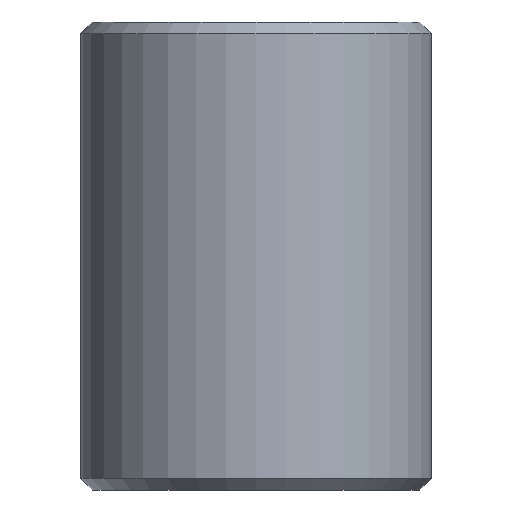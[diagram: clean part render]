
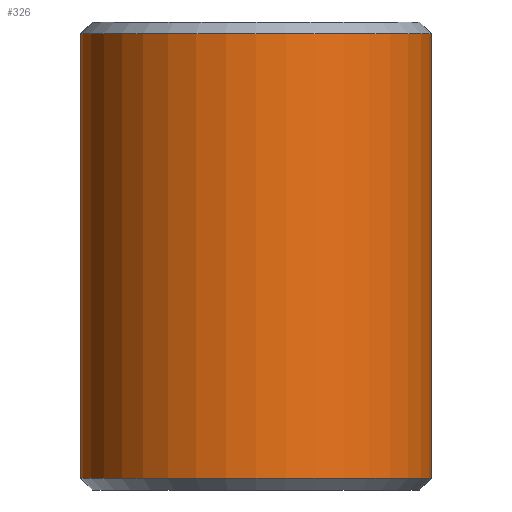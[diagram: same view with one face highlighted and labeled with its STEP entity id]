
A CAD part, front view. The second image highlights one B-rep face of the part: STEP entity #326.
In plain terms, the highlighted cylindrical face has radius 60 mm (diameter 120 mm), a partial arc.
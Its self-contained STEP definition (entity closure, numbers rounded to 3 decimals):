
#1 = DIRECTION ( 'NONE',  ( 0., 0., -1. ) ) ;
#23 = ORIENTED_EDGE ( 'NONE', *, *, #274, .F. ) ;
#42 = LINE ( 'NONE', #319, #230 ) ;
#45 = CIRCLE ( 'NONE', #106, 60. ) ;
#48 = DIRECTION ( 'NONE',  ( 0., 0., -1. ) ) ;
#64 = EDGE_LOOP ( 'NONE', ( #23, #137, #131, #191 ) ) ;
#81 = CARTESIAN_POINT ( 'NONE',  ( 60., 0., -76. ) ) ;
#100 = CIRCLE ( 'NONE', #401, 60. ) ;
#106 = AXIS2_PLACEMENT_3D ( 'NONE', #218, #256, #192 ) ;
#118 = DIRECTION ( 'NONE',  ( 1., 0., 0. ) ) ;
#131 = ORIENTED_EDGE ( 'NONE', *, *, #305, .T. ) ;
#137 = ORIENTED_EDGE ( 'NONE', *, *, #338, .T. ) ;
#146 = CARTESIAN_POINT ( 'NONE',  ( -60., 0., 80. ) ) ;
#151 = DIRECTION ( 'NONE',  ( -1., 0., 0. ) ) ;
#154 = CARTESIAN_POINT ( 'NONE',  ( 0., 0., 76. ) ) ;
#183 = CARTESIAN_POINT ( 'NONE',  ( -60., 0., -76. ) ) ;
#184 = CARTESIAN_POINT ( 'NONE',  ( -60., 0., 76. ) ) ;
#191 = ORIENTED_EDGE ( 'NONE', *, *, #444, .T. ) ;
#192 = DIRECTION ( 'NONE',  ( 1., 0., 0. ) ) ;
#200 = VERTEX_POINT ( 'NONE', #81 ) ;
#218 = CARTESIAN_POINT ( 'NONE',  ( 0., 0., -76. ) ) ;
#222 = VECTOR ( 'NONE', #1, 1000. ) ;
#230 = VECTOR ( 'NONE', #350, 1000. ) ;
#232 = VERTEX_POINT ( 'NONE', #448 ) ;
#256 = DIRECTION ( 'NONE',  ( 0., 0., 1. ) ) ;
#258 = CARTESIAN_POINT ( 'NONE',  ( 0., 0., 80. ) ) ;
#274 = EDGE_CURVE ( 'NONE', #232, #200, #42, .T. ) ;
#286 = CYLINDRICAL_SURFACE ( 'NONE', #291, 60. ) ;
#291 = AXIS2_PLACEMENT_3D ( 'NONE', #258, #48, #151 ) ;
#304 = VERTEX_POINT ( 'NONE', #183 ) ;
#305 = EDGE_CURVE ( 'NONE', #441, #304, #355, .T. ) ;
#319 = CARTESIAN_POINT ( 'NONE',  ( 60., 0., 80. ) ) ;
#326 = ADVANCED_FACE ( 'NONE', ( #383 ), #286, .T. ) ;
#338 = EDGE_CURVE ( 'NONE', #232, #441, #100, .T. ) ;
#350 = DIRECTION ( 'NONE',  ( 0., 0., -1. ) ) ;
#355 = LINE ( 'NONE', #146, #222 ) ;
#383 = FACE_OUTER_BOUND ( 'NONE', #64, .T. ) ;
#401 = AXIS2_PLACEMENT_3D ( 'NONE', #154, #419, #118 ) ;
#419 = DIRECTION ( 'NONE',  ( 0., 0., -1. ) ) ;
#441 = VERTEX_POINT ( 'NONE', #184 ) ;
#444 = EDGE_CURVE ( 'NONE', #304, #200, #45, .T. ) ;
#448 = CARTESIAN_POINT ( 'NONE',  ( 60., 0., 76. ) ) ;
